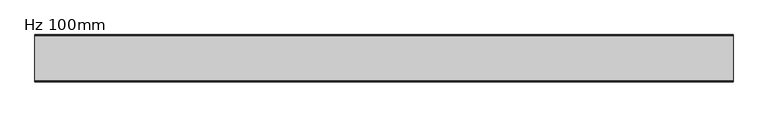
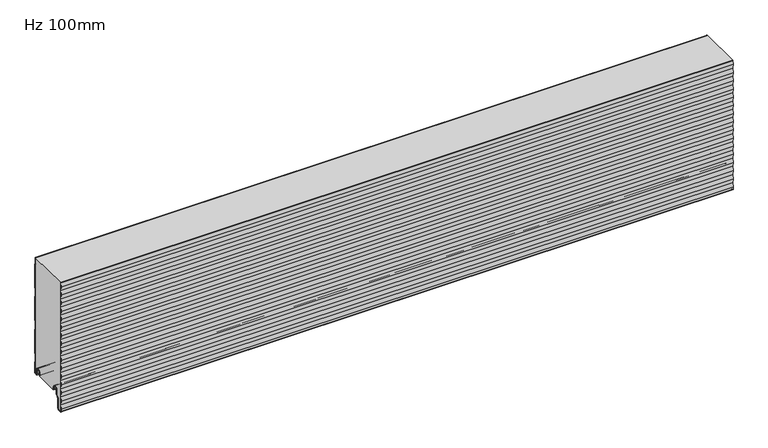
"""IFC4 building model written with IfcOpenShell, lengths in millimetres: plate geometry, KIP-MEX-KSS-1067-R19-CP-Hz-MR_SL : Hz 100mm."""

from ifc_helpers import new_model, si_unit, point, frame, frame_2d, origin, place, context, project, spatial, polyline, circle_curve, trimmed, segment, composite_curve, outline, extrude, source, transform, mapped, element, save
from ifc_brep_helpers import plane_surface, cylinder_surface, revolved_surface, advanced_brep


def hz_100mm_43d21306(model_context):
    return source(origin(), model_context, "Body", "SolidModel", [
        advanced_brep(
        [(-740.0, -17.0015159, 2.0313088), (-740.0, -18.0015191, 1.0313116), (-740.0, -19.0015105, 2.0313088), (-740.0, -19.0015105, 6.0315125), (-740.0, -18.0015159, 6.0315125), (-740.0, -18.0015159, 8.7237223), (-740.0, -14.7015202, 12.023718), (-740.0, -10.301529, 12.023718), (-740.0, -7.0015335, 8.7237225), (-740.0, -7.0015335, -1.6962564), (-740.0, -5.2315393, -3.4662506), (-740.0, -0.9999916, -3.4662506), (-740.0, -0.9999916, 21.034026), (-740.0, -2.2002307, 22.4196686), (-740.0, -2.2002307, 41.7948349), (-740.0, -1.0, 43.1804679), (-740.0, -1.0, 97.2338833), (-740.0, -2.2002307, 98.6195162), (-740.0, -2.2002307, 117.9946825), (-740.0, -1.0, 119.3803155), (-740.0, -1.0, 173.4337309), (-740.0, -2.2002307, 174.8193638), (-740.0, -2.2002307, 194.1945301), (-740.0, -1.0, 195.5801631), (-740.0, -1.0, 249.6335785), (-740.0, -2.2002307, 251.0192114), (-740.0, -2.2002307, 266.0), (-740.0, -1.2002307, 266.0), (-740.0, -1.2002307, 251.3920919), (-740.0, -0.3417885, 250.4010442), (-740.0, 0.0, 249.4844273), (-740.0, 0.0, 195.7293142), (-740.0, -0.3417885, 194.8126973), (-740.0, -1.2002307, 193.8216497), (-740.0, -1.2002307, 175.1922443), (-740.0, -0.3417885, 174.2011966), (-740.0, 0.0, 173.2845797), (-740.0, 0.0, 119.5294666), (-740.0, -0.3417885, 118.6128497), (-740.0, -1.2002307, 117.6218021), (-740.0, -1.2002307, 98.9923967), (-740.0, -0.3417885, 98.001349), (-740.0, 0.0, 97.0847321), (-740.0, 0.0, 43.329619), (-740.0, -0.3417885, 42.4130021), (-740.0, -1.2002307, 41.4219545), (-740.0, -1.2002307, 22.7925491), (-740.0, -0.3417885, 21.8015014), (-740.0, 0.0, 20.8847931), (-740.0, 8.4e-06, -3.0662545), (-740.0, -1.3999878, -4.4662506), (-740.0, -5.2315393, -4.4662506), (-740.0, -8.0015335, -1.6962564), (-740.0, -8.0015335, 8.7237225), (-740.0, -10.301529, 11.023718), (-740.0, -14.7015202, 11.023718), (-740.0, -17.0015159, 8.7237223), (740.0, -17.0015159, 2.0313088), (740.0, -17.0015159, 8.7237223), (740.0, -14.7015202, 11.023718), (740.0, -10.301529, 11.023718), (740.0, -8.0015335, 8.7237225), (740.0, -8.0015335, -1.6962564), (740.0, -5.2315393, -4.4662506), (740.0, -1.3999878, -4.4662506), (740.0, 8.4e-06, -3.0662545), (740.0, 8.4e-06, 20.8848845), (740.0, -0.3417885, 21.8015014), (740.0, -1.2002307, 22.7925491), (740.0, -1.2002307, 41.4219545), (740.0, -0.3417885, 42.4130021), (740.0, 0.0, 43.329619), (740.0, 0.0, 97.0847321), (740.0, -0.3417885, 98.001349), (740.0, -1.2002307, 98.9923967), (740.0, -1.2002307, 117.6218021), (740.0, -0.3417885, 118.6128497), (740.0, 0.0, 119.5294666), (740.0, 0.0, 173.2845797), (740.0, -0.3417885, 174.2011966), (740.0, -1.2002307, 175.1922443), (740.0, -1.2002307, 193.8216497), (740.0, -0.3417885, 194.8126973), (740.0, 0.0, 195.7293142), (740.0, 0.0, 249.4844273), (740.0, -0.3417885, 250.4010442), (740.0, -1.2002307, 251.3920919), (740.0, -1.2002307, 266.0), (740.0, -2.2002307, 266.0), (740.0, -2.2002307, 251.0192114), (740.0, -1.0, 249.6335785), (740.0, -1.0, 195.5801631), (740.0, -2.2002307, 194.1945301), (740.0, -2.2002307, 174.8193638), (740.0, -1.0, 173.4337309), (740.0, -1.0, 119.3803155), (740.0, -2.2002307, 117.9946825), (740.0, -2.2002307, 98.6195162), (740.0, -1.0, 97.2338833), (740.0, -1.0, 43.1804679), (740.0, -2.2002307, 41.7948349), (740.0, -2.2002307, 22.4196686), (740.0, -0.9999916, 21.034026), (740.0, -0.9999916, -3.4662506), (740.0, -5.2315393, -3.4662506), (740.0, -7.0015335, -1.6962564), (740.0, -7.0015335, 8.7237225), (740.0, -10.301529, 12.023718), (740.0, -14.7015202, 12.023718), (740.0, -18.0015159, 8.7237223), (740.0, -18.0015159, 6.0315125), (740.0, -19.0015105, 6.0315125), (740.0, -19.0015105, 2.0313088), (740.0, -18.0015192, 1.0313116)],
        [
            (0, 1, circle_curve(frame((-740.0, -18.0015132, 2.0313088), z_axis=(-1.0, 0.0, 0.0), x_axis=(0.0, 0.0, 1.0)), 0.9999973)),
            (1, 2, circle_curve(frame((-740.0, -18.0015133, 2.0313088), z_axis=(-1.0, 0.0, 0.0), x_axis=(0.0, 0.0, 1.0)), 0.9999972)),
            (2, 3),
            (3, 4),
            (4, 5),
            (5, 6, circle_curve(frame((-740.0, -14.7015202, 8.7237223), z_axis=(-1.0, 0.0, 0.0), x_axis=(0.0, 0.0, 1.0)), 3.2999957)),
            (6, 7),
            (7, 8, circle_curve(frame((-740.0, -10.301529, 8.7237225), z_axis=(-1.0, 0.0, 0.0), x_axis=(0.0, 0.0, 1.0)), 3.2999955)),
            (8, 9),
            (9, 10, circle_curve(frame((-740.0, -5.2315393, -1.6962564), z_axis=(1.0, 0.0, 0.0), x_axis=(0.0, 0.0, 1.0)), 1.7699942)),
            (10, 11),
            (11, 12),
            (12, 13),
            (13, 14),
            (14, 15),
            (15, 16),
            (16, 17),
            (17, 18),
            (18, 19),
            (19, 20),
            (20, 21),
            (21, 22),
            (22, 23),
            (23, 24),
            (24, 25),
            (25, 26),
            (26, 27),
            (27, 28),
            (28, 29),
            (29, 30, circle_curve(frame((-740.0, -1.3999972, 249.4844273), z_axis=(-1.0, 0.0, 0.0), x_axis=(0.0, 0.0, 1.0)), 1.3999972)),
            (30, 31),
            (31, 32, circle_curve(frame((-740.0, -1.3999972, 195.7293142), z_axis=(-1.0, 0.0, 0.0), x_axis=(0.0, 0.0, 1.0)), 1.3999972)),
            (32, 33),
            (33, 34),
            (34, 35),
            (35, 36, circle_curve(frame((-740.0, -1.3999972, 173.2845797), z_axis=(-1.0, 0.0, 0.0), x_axis=(0.0, 0.0, 1.0)), 1.3999972)),
            (36, 37),
            (37, 38, circle_curve(frame((-740.0, -1.3999972, 119.5294666), z_axis=(-1.0, 0.0, 0.0), x_axis=(0.0, 0.0, 1.0)), 1.3999972)),
            (38, 39),
            (39, 40),
            (40, 41),
            (41, 42, circle_curve(frame((-740.0, -1.3999972, 97.0847321), z_axis=(-1.0, 0.0, 0.0), x_axis=(0.0, 0.0, 1.0)), 1.3999972)),
            (42, 43),
            (43, 44, circle_curve(frame((-740.0, -1.3999972, 43.329619), z_axis=(-1.0, 0.0, 0.0), x_axis=(0.0, 0.0, 1.0)), 1.3999972)),
            (44, 45),
            (45, 46),
            (46, 47),
            (47, 48, circle_curve(frame((-740.0, -1.3999972, 20.8848845), z_axis=(-1.0, 0.0, 0.0), x_axis=(0.0, 0.0, 1.0)), 1.3999972)),
            (48, 49),
            (49, 50, circle_curve(frame((-740.0, -1.3999878, -3.0662545), z_axis=(-1.0, 0.0, 0.0), x_axis=(0.0, 0.0, 1.0)), 1.3999962)),
            (50, 51),
            (51, 52, circle_curve(frame((-740.0, -5.2315393, -1.6962564), z_axis=(-1.0, 0.0, 0.0), x_axis=(0.0, 0.0, 1.0)), 2.7699942)),
            (52, 53),
            (53, 54, circle_curve(frame((-740.0, -10.301529, 8.7237225), z_axis=(1.0, 0.0, 0.0), x_axis=(0.0, 0.0, 1.0)), 2.2999955)),
            (54, 55),
            (55, 56, circle_curve(frame((-740.0, -14.7015202, 8.7237223), z_axis=(1.0, 0.0, 0.0), x_axis=(0.0, 0.0, 1.0)), 2.2999957)),
            (56, 0),
            (57, 58),
            (58, 59, circle_curve(frame((740.0, -14.7015202, 8.7237223), z_axis=(-1.0, 0.0, 0.0), x_axis=(0.0, 0.0, 1.0)), 2.2999957)),
            (59, 60),
            (60, 61, circle_curve(frame((740.0, -10.301529, 8.7237225), z_axis=(-1.0, 0.0, 0.0), x_axis=(0.0, 0.0, 1.0)), 2.2999955)),
            (61, 62),
            (62, 63, circle_curve(frame((740.0, -5.2315393, -1.6962564), z_axis=(1.0, 0.0, 0.0), x_axis=(0.0, 0.0, 1.0)), 2.7699942)),
            (63, 64),
            (64, 65, circle_curve(frame((740.0, -1.3999878, -3.0662545), z_axis=(1.0, 0.0, 0.0), x_axis=(0.0, 0.0, 1.0)), 1.3999962)),
            (65, 66),
            (66, 67, circle_curve(frame((740.0, -1.3999972, 20.8848845), z_axis=(1.0, 0.0, 0.0), x_axis=(0.0, 0.0, 1.0)), 1.3999972)),
            (67, 68),
            (68, 69),
            (69, 70),
            (70, 71, circle_curve(frame((740.0, -1.3999972, 43.329619), z_axis=(1.0, 0.0, 0.0), x_axis=(0.0, 0.0, 1.0)), 1.3999972)),
            (71, 72),
            (72, 73, circle_curve(frame((740.0, -1.3999972, 97.0847321), z_axis=(1.0, 0.0, 0.0), x_axis=(0.0, 0.0, 1.0)), 1.3999972)),
            (73, 74),
            (74, 75),
            (75, 76),
            (76, 77, circle_curve(frame((740.0, -1.3999972, 119.5294666), z_axis=(1.0, 0.0, 0.0), x_axis=(0.0, 0.0, 1.0)), 1.3999972)),
            (77, 78),
            (78, 79, circle_curve(frame((740.0, -1.3999972, 173.2845797), z_axis=(1.0, 0.0, 0.0), x_axis=(0.0, 0.0, 1.0)), 1.3999972)),
            (79, 80),
            (80, 81),
            (81, 82),
            (82, 83, circle_curve(frame((740.0, -1.3999972, 195.7293142), z_axis=(1.0, 0.0, 0.0), x_axis=(0.0, 0.0, 1.0)), 1.3999972)),
            (83, 84),
            (84, 85, circle_curve(frame((740.0, -1.3999972, 249.4844273), z_axis=(1.0, 0.0, 0.0), x_axis=(0.0, 0.0, 1.0)), 1.3999972)),
            (85, 86),
            (86, 87),
            (87, 88),
            (88, 89),
            (89, 90),
            (90, 91),
            (91, 92),
            (92, 93),
            (93, 94),
            (94, 95),
            (95, 96),
            (96, 97),
            (97, 98),
            (98, 99),
            (99, 100),
            (100, 101),
            (101, 102),
            (102, 103),
            (103, 104),
            (104, 105, circle_curve(frame((740.0, -5.2315393, -1.6962564), z_axis=(-1.0, 0.0, 0.0), x_axis=(0.0, 0.0, 1.0)), 1.7699942)),
            (105, 106),
            (106, 107, circle_curve(frame((740.0, -10.301529, 8.7237225), z_axis=(1.0, 0.0, 0.0), x_axis=(0.0, 0.0, 1.0)), 3.2999955)),
            (107, 108),
            (108, 109, circle_curve(frame((740.0, -14.7015202, 8.7237223), z_axis=(1.0, 0.0, 0.0), x_axis=(0.0, 0.0, 1.0)), 3.2999957)),
            (109, 110),
            (110, 111),
            (111, 112),
            (112, 113, circle_curve(frame((740.0, -18.0015133, 2.0313088), z_axis=(1.0, 0.0, 0.0), x_axis=(0.0, 0.0, 1.0)), 0.9999972)),
            (113, 57, circle_curve(frame((740.0, -18.0015132, 2.0313088), z_axis=(1.0, 0.0, 0.0), x_axis=(0.0, 0.0, 1.0)), 0.9999973)),
            (56, 58),
            (57, 0),
            (55, 59),
            (54, 60),
            (53, 61),
            (52, 62),
            (51, 63),
            (50, 64),
            (49, 65),
            (48, 66),
            (47, 67),
            (46, 68),
            (45, 69),
            (44, 70),
            (43, 71),
            (42, 72),
            (41, 73),
            (40, 74),
            (39, 75),
            (38, 76),
            (37, 77),
            (36, 78),
            (35, 79),
            (34, 80),
            (33, 81),
            (32, 82),
            (31, 83),
            (30, 84),
            (29, 85),
            (28, 86),
            (27, 87),
            (88, 26),
            (25, 89),
            (24, 90),
            (23, 91),
            (22, 92),
            (21, 93),
            (20, 94),
            (19, 95),
            (18, 96),
            (17, 97),
            (16, 98),
            (15, 99),
            (14, 100),
            (13, 101),
            (12, 102),
            (11, 103),
            (10, 104),
            (9, 105),
            (8, 106),
            (7, 107),
            (6, 108),
            (5, 109),
            (4, 110),
            (3, 111),
            (2, 112),
            (1, 113),
        ],
        [
            plane_surface(frame((-740.0, 0.0, 533.4), z_axis=(-1.0, 0.0, 0.0), x_axis=(0.0, 1.0, 0.0))),
            plane_surface(frame((740.0, 0.0, 533.4), z_axis=(1.0, 0.0, 0.0), x_axis=(0.0, 1.0, 0.0))),
            plane_surface(frame((-740.0, -17.0015159, 2.0313088), z_axis=(0.0, 1.0, 0.0), x_axis=(1.0, 0.0, 0.0))),
            revolved_surface(polyline([(740.0, -14.7015202, 11.023718), (-740.0, -14.7015202, 11.023718)]), (-740.0, -14.7015202, 8.7237223), (1.0, 0.0, 0.0)),
            plane_surface(frame((-740.0, -14.7015202, 11.023718), z_axis=(0.0, 0.0, -1.0), x_axis=(1.0, 0.0, 0.0))),
            revolved_surface(polyline([(740.0, -10.301529, 11.023717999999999), (-740.0, -10.301529, 11.023717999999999)]), (-740.0, -10.301529, 8.7237225), (1.0, 0.0, 0.0)),
            plane_surface(frame((-740.0, -8.0015335, 8.7237225), z_axis=(0.0, -1.0, 0.0), x_axis=(1.0, 0.0, 0.0))),
            cylinder_surface(frame((-740.0, -5.2315393, -1.6962564), z_axis=(-1.0, 0.0, 0.0), x_axis=(0.0, 0.0, 1.0)), 2.7699942),
            plane_surface(frame((-740.0, -5.2315393, -4.4662506), z_axis=(0.0, 0.0, -1.0), x_axis=(1.0, 0.0, 0.0))),
            cylinder_surface(frame((-740.0, -1.3999878, -3.0662545), z_axis=(-1.0, 0.0, 0.0), x_axis=(0.0, 0.0, 1.0)), 1.3999962),
            plane_surface(frame((-740.0, 8.4e-06, -3.0662545), z_axis=(0.0, 1.0, 0.0), x_axis=(1.0, 0.0, 0.0))),
            cylinder_surface(frame((-740.0, -1.3999972, 20.8848845), z_axis=(-1.0, 0.0, 0.0), x_axis=(0.0, 0.0, 1.0)), 1.3999972),
            plane_surface(frame((-740.0, -0.3417885, 21.8015014), z_axis=(0.0, 0.755864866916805, 0.6547276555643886), x_axis=(1.0, 0.0, 0.0))),
            plane_surface(frame((-740.0, -1.2002307, 32.1072518), z_axis=(0.0, 1.0, 0.0), x_axis=(1.0, 0.0, 0.0))),
            plane_surface(frame((-740.0, -1.2002307, 41.4219545), z_axis=(0.0, 0.755864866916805, -0.6547276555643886), x_axis=(1.0, 0.0, 0.0))),
            cylinder_surface(frame((-740.0, -1.3999972, 43.329619), z_axis=(-1.0, 0.0, 0.0), x_axis=(0.0, 0.0, 1.0)), 1.3999972),
            plane_surface(frame((-740.0, 0.0, 43.329619), z_axis=(0.0, 1.0, 0.0), x_axis=(1.0, 0.0, 0.0))),
            cylinder_surface(frame((-740.0, -1.3999972, 97.0847321), z_axis=(-1.0, 0.0, 0.0), x_axis=(0.0, 0.0, 1.0)), 1.3999972),
            plane_surface(frame((-740.0, -0.3417885, 98.001349), z_axis=(0.0, 0.755864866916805, 0.6547276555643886), x_axis=(1.0, 0.0, 0.0))),
            plane_surface(frame((-740.0, -1.2002307, 108.3070994), z_axis=(0.0, 1.0, 0.0), x_axis=(1.0, 0.0, 0.0))),
            plane_surface(frame((-740.0, -1.2002307, 117.6218021), z_axis=(0.0, 0.755864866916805, -0.6547276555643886), x_axis=(1.0, 0.0, 0.0))),
            cylinder_surface(frame((-740.0, -1.3999972, 119.5294666), z_axis=(-1.0, 0.0, 0.0), x_axis=(0.0, 0.0, 1.0)), 1.3999972),
            plane_surface(frame((-740.0, 0.0, 119.5294666), z_axis=(0.0, 1.0, 0.0), x_axis=(1.0, 0.0, 0.0))),
            cylinder_surface(frame((-740.0, -1.3999972, 173.2845797), z_axis=(-1.0, 0.0, 0.0), x_axis=(0.0, 0.0, 1.0)), 1.3999972),
            plane_surface(frame((-740.0, -0.3417885, 174.2011966), z_axis=(0.0, 0.755864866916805, 0.6547276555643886), x_axis=(1.0, 0.0, 0.0))),
            plane_surface(frame((-740.0, -1.2002307, 184.506947), z_axis=(0.0, 1.0, 0.0), x_axis=(1.0, 0.0, 0.0))),
            plane_surface(frame((-740.0, -1.2002307, 193.8216497), z_axis=(0.0, 0.755864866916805, -0.6547276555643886), x_axis=(1.0, 0.0, 0.0))),
            cylinder_surface(frame((-740.0, -1.3999972, 195.7293142), z_axis=(-1.0, 0.0, 0.0), x_axis=(0.0, 0.0, 1.0)), 1.3999972),
            plane_surface(frame((-740.0, 0.0, 195.7293142), z_axis=(0.0, 1.0, 0.0), x_axis=(1.0, 0.0, 0.0))),
            cylinder_surface(frame((-740.0, -1.3999972, 249.4844273), z_axis=(-1.0, 0.0, 0.0), x_axis=(0.0, 0.0, 1.0)), 1.3999972),
            plane_surface(frame((-740.0, -0.3417885, 250.4010442), z_axis=(0.0, 0.755864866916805, 0.6547276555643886), x_axis=(1.0, 0.0, 0.0))),
            plane_surface(frame((-740.0, -1.2002307, 260.7067946), z_axis=(0.0, 1.0, 0.0), x_axis=(1.0, 0.0, 0.0))),
            plane_surface(frame((-740.0, -2.2002307, 270.3943777), z_axis=(0.0, -1.0, 0.0), x_axis=(1.0, 0.0, 0.0))),
            plane_surface(frame((-740.0, -2.2002307, 251.0192114), z_axis=(0.0, -0.755864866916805, -0.6547276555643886), x_axis=(1.0, 0.0, 0.0))),
            plane_surface(frame((-740.0, -1.0, 249.6335785), z_axis=(0.0, -1.0, 0.0), x_axis=(1.0, 0.0, 0.0))),
            plane_surface(frame((-740.0, -1.0, 195.5801631), z_axis=(0.0, -0.755864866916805, 0.6547276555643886), x_axis=(1.0, 0.0, 0.0))),
            plane_surface(frame((-740.0, -2.2002307, 194.1945301), z_axis=(0.0, -1.0, 0.0), x_axis=(1.0, 0.0, 0.0))),
            plane_surface(frame((-740.0, -2.2002307, 174.8193638), z_axis=(0.0, -0.755864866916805, -0.6547276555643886), x_axis=(1.0, 0.0, 0.0))),
            plane_surface(frame((-740.0, -1.0, 173.4337309), z_axis=(0.0, -1.0, 0.0), x_axis=(1.0, 0.0, 0.0))),
            plane_surface(frame((-740.0, -1.0, 119.3803155), z_axis=(0.0, -0.755864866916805, 0.6547276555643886), x_axis=(1.0, 0.0, 0.0))),
            plane_surface(frame((-740.0, -2.2002307, 117.9946825), z_axis=(0.0, -1.0, 0.0), x_axis=(1.0, 0.0, 0.0))),
            plane_surface(frame((-740.0, -2.2002307, 98.6195162), z_axis=(0.0, -0.755864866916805, -0.6547276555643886), x_axis=(1.0, 0.0, 0.0))),
            plane_surface(frame((-740.0, -1.0, 97.2338833), z_axis=(0.0, -1.0, 0.0), x_axis=(1.0, 0.0, 0.0))),
            plane_surface(frame((-740.0, -1.0, 43.1804679), z_axis=(0.0, -0.755864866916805, 0.6547276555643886), x_axis=(1.0, 0.0, 0.0))),
            plane_surface(frame((-740.0, -2.2002307, 41.7948349), z_axis=(0.0, -1.0, 0.0), x_axis=(1.0, 0.0, 0.0))),
            plane_surface(frame((-740.0, -2.2002307, 22.4196686), z_axis=(0.0, -0.755864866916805, -0.6547276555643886), x_axis=(1.0, 0.0, 0.0))),
            plane_surface(frame((-740.0, -0.9999916, 21.034026), z_axis=(0.0, -1.0, 0.0), x_axis=(1.0, 0.0, 0.0))),
            plane_surface(frame((-740.0, -0.9999916, -3.4662506), z_axis=(0.0, 0.0, 1.0), x_axis=(1.0, 0.0, 0.0))),
            revolved_surface(polyline([(740.0, -5.2315393, 0.07373779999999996), (-740.0, -5.2315393, 0.07373779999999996)]), (-740.0, -5.2315393, -1.6962564), (1.0, 0.0, 0.0)),
            plane_surface(frame((-740.0, -7.0015335, -1.6962564), z_axis=(0.0, 1.0, 0.0), x_axis=(1.0, 0.0, 0.0))),
            cylinder_surface(frame((-740.0, -10.301529, 8.7237225), z_axis=(-1.0, 0.0, 0.0), x_axis=(0.0, 0.0, 1.0)), 3.2999955),
            plane_surface(frame((-740.0, -10.301529, 12.023718), z_axis=(0.0, 0.0, 1.0), x_axis=(1.0, 0.0, 0.0))),
            cylinder_surface(frame((-740.0, -14.7015202, 8.7237223), z_axis=(-1.0, 0.0, 0.0), x_axis=(0.0, 0.0, 1.0)), 3.2999957),
            plane_surface(frame((-740.0, -18.0015159, 8.7237223), z_axis=(0.0, -1.0, 0.0), x_axis=(1.0, 0.0, 0.0))),
            plane_surface(frame((-740.0, -18.0015159, 6.0315125), z_axis=(0.0, 0.0, 1.0), x_axis=(1.0, 0.0, 0.0))),
            plane_surface(frame((-740.0, -19.0015105, 6.0315125), z_axis=(0.0, -1.0, 0.0), x_axis=(1.0, 0.0, 0.0))),
            cylinder_surface(frame((-740.0, -18.0015133, 2.0313088), z_axis=(-1.0, 0.0, 0.0), x_axis=(0.0, 0.0, 1.0)), 0.9999972),
            cylinder_surface(frame((-740.0, -18.0015132, 2.0313088), z_axis=(-1.0, 0.0, 0.0), x_axis=(0.0, 0.0, 1.0)), 0.9999973),
            plane_surface(frame((740.0, 10.0, 266.0), z_axis=(0.0, 0.0, 1.0), x_axis=(-1.0, 0.0, 0.0))),
        ],
        [
            (0, [[1, 2, 3, 4, 5, 6, 7, 8, 9, 10, 11, 12, 13, 14, 15, 16, 17, 18, 19, 20, 21, 22, 23, 24, 25, 26, 27, 28, 29, 30, 31, 32, 33, 34, 35, 36, 37, 38, 39, 40, 41, 42, 43, 44, 45, 46, 47, 48, 49, 50, 51, 52, 53, 54, 55, 56, 57]]),
            (1, [[58, 59, 60, 61, 62, 63, 64, 65, 66, 67, 68, 69, 70, 71, 72, 73, 74, 75, 76, 77, 78, 79, 80, 81, 82, 83, 84, 85, 86, 87, 88, 89, 90, 91, 92, 93, 94, 95, 96, 97, 98, 99, 100, 101, 102, 103, 104, 105, 106, 107, 108, 109, 110, 111, 112, 113, 114]]),
            (2, [[115, -58, 116, -57]]),
            (3, [[117, -59, -115, -56]]),
            (4, [[118, -60, -117, -55]]),
            (5, [[119, -61, -118, -54]]),
            (6, [[120, -62, -119, -53]]),
            (7, [[121, -63, -120, -52]]),
            (8, [[122, -64, -121, -51]]),
            (9, [[123, -65, -122, -50]]),
            (10, [[124, -66, -123, -49]]),
            (11, [[125, -67, -124, -48]]),
            (12, [[126, -68, -125, -47]]),
            (13, [[127, -69, -126, -46]]),
            (14, [[128, -70, -127, -45]]),
            (15, [[129, -71, -128, -44]]),
            (16, [[130, -72, -129, -43]]),
            (17, [[131, -73, -130, -42]]),
            (18, [[132, -74, -131, -41]]),
            (19, [[133, -75, -132, -40]]),
            (20, [[134, -76, -133, -39]]),
            (21, [[135, -77, -134, -38]]),
            (22, [[136, -78, -135, -37]]),
            (23, [[137, -79, -136, -36]]),
            (24, [[138, -80, -137, -35]]),
            (25, [[139, -81, -138, -34]]),
            (26, [[140, -82, -139, -33]]),
            (27, [[141, -83, -140, -32]]),
            (28, [[142, -84, -141, -31]]),
            (29, [[143, -85, -142, -30]]),
            (30, [[144, -86, -143, -29]]),
            (31, [[-28, 145, -87, -144]]),
            (32, [[-89, 146, -26, 147]]),
            (33, [[148, -90, -147, -25]]),
            (34, [[149, -91, -148, -24]]),
            (35, [[150, -92, -149, -23]]),
            (36, [[151, -93, -150, -22]]),
            (37, [[152, -94, -151, -21]]),
            (38, [[153, -95, -152, -20]]),
            (39, [[154, -96, -153, -19]]),
            (40, [[155, -97, -154, -18]]),
            (41, [[156, -98, -155, -17]]),
            (42, [[157, -99, -156, -16]]),
            (43, [[158, -100, -157, -15]]),
            (44, [[159, -101, -158, -14]]),
            (45, [[160, -102, -159, -13]]),
            (46, [[161, -103, -160, -12]]),
            (47, [[162, -104, -161, -11]]),
            (48, [[163, -105, -162, -10]]),
            (49, [[164, -106, -163, -9]]),
            (50, [[165, -107, -164, -8]]),
            (51, [[166, -108, -165, -7]]),
            (52, [[167, -109, -166, -6]]),
            (53, [[168, -110, -167, -5]]),
            (54, [[169, -111, -168, -4]]),
            (55, [[170, -112, -169, -3]]),
            (56, [[171, -113, -170, -2]]),
            (57, [[-116, -114, -171, -1]]),
            (58, [[-146, -88, -145, -27]]),
        ],
    ),
        extrude(outline(composite_curve([segment(polyline([(-100.0, -8.9442792), (-98.9411849, 0.5807017), (-100.0, 10.1056827), (-98.9411849, 19.6306636), (-100.0, 29.1556446), (-98.9411849, 38.6806255), (-100.0, 48.2056065), (-98.9411849, 57.7305874), (-100.0, 67.2555684), (-98.9411849, 76.7805493), (-100.0, 86.3055303), (-98.9411849, 95.8305112), (-100.0, 105.3554922), (-98.9411849, 114.8804731), (-100.0, 124.4054541), (-98.9411849, 133.930435), (-100.0, 143.455416), (-98.9411849, 152.9803969), (-100.0, 162.5053779), (-98.9411849, 172.0303588), (-100.0, 181.5553398), (-98.9411849, 191.0803207), (-100.0, 200.6053017), (-98.9411849, 210.1302826), (-100.0, 219.6552636), (-98.9411849, 229.1802445), (-100.0, 238.7052255), (-98.9411849, 248.2302064), (-100.0, 257.7551874), (-99.0834909, 266.0), (-98.0773313, 266.0), (-98.9938405, 257.7551874), (-97.9350254, 248.2302064), (-98.9938405, 238.7052255), (-97.9350254, 229.1802445), (-98.9938405, 219.6552636), (-97.9350254, 210.1302826), (-98.9938405, 200.6053017), (-97.9350254, 191.0803207), (-98.9938405, 181.5553398), (-97.9350254, 172.0303588), (-98.9938405, 162.5053779), (-97.9350254, 152.9803969), (-98.9938405, 143.455416), (-97.9350254, 133.930435), (-98.9938405, 124.4054541), (-97.9350254, 114.8804731), (-98.9938405, 105.3554922), (-97.9350254, 95.8305112), (-98.9938405, 86.3055303), (-97.9350254, 76.7805493), (-98.9938405, 67.2555684), (-97.9350254, 57.7305874), (-98.9938405, 48.2056065), (-97.9350254, 38.6806255), (-98.9938405, 29.1556446), (-97.9350254, 19.6306636), (-98.9938405, 10.1056827), (-97.9350254, 0.5807017), (-98.9938405, -8.9442792), (-97.9350254, -18.4692602), (-98.9722676, -27.800174), (-98.9722676, -32.4501937)]), True, "CONTINUOUS"), segment(trimmed(circle_curve(frame_2d((-96.4022755, -32.4521995)), 2.5699929), [point((-98.9722676, -32.4501937))], [point((-96.1782859, -35.0124127))], True, "CARTESIAN"), True, "CONTINUOUS"), segment(polyline([(-96.1782859, -35.0124127), (-91.1965632, -34.5765685)]), True, "CONTINUOUS"), segment(trimmed(circle_curve(frame_2d((-91.677967, -31.9198392)), 2.6999926), [point((-91.1965632, -34.5765685))], [point((-88.9779744, -31.9198392))], True, "CARTESIAN"), True, "CONTINUOUS"), segment(polyline([(-88.9779744, -31.9198392), (-88.9779744, -10.7773997)]), True, "CONTINUOUS"), segment(trimmed(circle_curve(frame_2d((-86.677977, -10.7773997)), 2.2999974), [point((-88.9779744, -10.7773997))], [point((-88.3043208, -9.1510559))], False, "CARTESIAN"), True, "CONTINUOUS"), segment(polyline([(-88.3043208, -9.1510559), (-83.4759033, -4.3226385)]), True, "CONTINUOUS"), segment(trimmed(circle_curve(frame_2d((-84.677981, -3.1205608)), 1.6999946), [point((-83.4759033, -4.3226385))], [point((-82.9779864, -3.1205608))], True, "CARTESIAN"), True, "CONTINUOUS"), segment(polyline([(-82.9779864, -3.1205608), (-82.9779864, 8.6903283)]), True, "CONTINUOUS"), segment(trimmed(circle_curve(frame_2d((-79.6279911, 8.6903283)), 3.3499953), [point((-82.9779864, 8.6903283))], [point((-79.6279911, 12.0403236))], False, "CARTESIAN"), True, "CONTINUOUS"), segment(polyline([(-79.6279911, 12.0403236), (-75.2279999, 12.0403236)]), True, "CONTINUOUS"), segment(trimmed(circle_curve(frame_2d((-75.2279999, 8.6903283)), 3.3499953), [point((-75.2279999, 12.0403236))], [point((-71.8780046, 8.6903283))], False, "CARTESIAN"), True, "CONTINUOUS"), segment(polyline([(-71.8780046, 8.6903283), (-71.8780046, 5.9912173), (-70.4795257, 5.9912173), (-70.4795257, 2.2328239)]), True, "CONTINUOUS"), segment(trimmed(circle_curve(frame_2d((-71.6795224, 2.2313092)), 1.1999976), [point((-70.4795257, 2.2328239))], [point((-71.6486225, 1.0317095))], False, "CARTESIAN"), True, "CONTINUOUS"), segment(trimmed(circle_curve(frame_2d((-71.6795224, 2.2313092)), 1.1999976), [point((-71.6486225, 1.0317095))], [point((-72.8780046, 2.1710221))], False, "CARTESIAN"), True, "CONTINUOUS"), segment(polyline([(-72.8780046, 2.1710221), (-72.8780046, 8.6903283)]), True, "CONTINUOUS"), segment(trimmed(circle_curve(frame_2d((-75.2279999, 8.6903283)), 2.3499953), [point((-72.8780046, 8.6903283))], [point((-75.2279999, 11.0403236))], True, "CARTESIAN"), True, "CONTINUOUS"), segment(polyline([(-75.2279999, 11.0403236), (-79.6279911, 11.0403236)]), True, "CONTINUOUS"), segment(trimmed(circle_curve(frame_2d((-79.6279911, 8.6903283)), 2.3499953), [point((-79.6279911, 11.0403236))], [point((-81.9779864, 8.6903283))], True, "CARTESIAN"), True, "CONTINUOUS"), segment(polyline([(-81.9779864, 8.6903283), (-81.9779864, -3.1205608)]), True, "CONTINUOUS"), segment(trimmed(circle_curve(frame_2d((-84.677981, -3.1205608)), 2.6999946), [point((-81.9779864, -3.1205608))], [point((-82.7687965, -5.0297453))], False, "CARTESIAN"), True, "CONTINUOUS"), segment(polyline([(-82.7687965, -5.0297453), (-87.597214, -9.8581627)]), True, "CONTINUOUS"), segment(trimmed(circle_curve(frame_2d((-86.677977, -10.7773997)), 1.2999974), [point((-87.597214, -9.8581627))], [point((-87.9779744, -10.7773997))], True, "CARTESIAN"), True, "CONTINUOUS"), segment(polyline([(-87.9779744, -10.7773997), (-87.9779744, -31.9198392)]), True, "CONTINUOUS"), segment(trimmed(circle_curve(frame_2d((-91.677967, -31.9198392)), 3.6999926), [point((-87.9779744, -31.9198392))], [point((-91.0671659, -35.5690675))], False, "CARTESIAN"), True, "CONTINUOUS"), segment(polyline([(-91.0671659, -35.5690675), (-96.0911302, -36.0086074)]), True, "CONTINUOUS"), segment(trimmed(circle_curve(frame_2d((-96.4022755, -32.4521995)), 3.5699929), [point((-96.0911302, -36.0086074))], [point((-99.9722676, -32.4498355))], False, "CARTESIAN"), True, "CONTINUOUS"), segment(polyline([(-99.9722676, -32.4498355), (-99.9722676, -27.7447637), (-98.9411849, -18.4692602), (-100.0, -8.9442792)]), True, "CONTINUOUS")], self_intersect=False)), frame((-740.0, 0.0, 0.0), z_axis=(1.0, 0.0, 0.0), x_axis=(0.0, 1.0, 0.0)), (0.0, 0.0, 1.0), 1480.0),
        extrude(outline(composite_curve([segment(polyline([(-75.2341594, 12.0403236), (-79.6341506, 12.0403236)]), True, "CONTINUOUS"), segment(trimmed(circle_curve(frame_2d((-79.6341506, 8.6903283)), 3.3499953), [point((-79.6341506, 12.0403236))], [point((-82.9841459, 8.6903283))], True, "CARTESIAN"), True, "CONTINUOUS"), segment(polyline([(-82.9841459, 8.6903283), (-82.9841459, -3.1205608)]), True, "CONTINUOUS"), segment(trimmed(circle_curve(frame_2d((-84.6841405, -3.1205608)), 1.6999946), [point((-82.9841459, -3.1205608))], [point((-83.4820628, -4.3226385))], False, "CARTESIAN"), True, "CONTINUOUS"), segment(polyline([(-83.4820628, -4.3226385), (-88.3104803, -9.1510559)]), True, "CONTINUOUS"), segment(trimmed(circle_curve(frame_2d((-86.6841365, -10.7773997)), 2.2999974), [point((-88.3104803, -9.1510559))], [point((-88.9841339, -10.7773997))], True, "CARTESIAN"), True, "CONTINUOUS"), segment(polyline([(-88.9841339, -10.7773997), (-88.9841339, -31.9198392)]), True, "CONTINUOUS"), segment(trimmed(circle_curve(frame_2d((-91.6841265, -31.9198392)), 2.6999926), [point((-88.9841339, -31.9198392))], [point((-91.2027227, -34.5765685))], False, "CARTESIAN"), True, "CONTINUOUS"), segment(polyline([(-91.2027227, -34.5765685), (-96.1844454, -35.0124127)]), True, "CONTINUOUS"), segment(trimmed(circle_curve(frame_2d((-96.4084351, -32.4521995)), 2.5699929), [point((-96.1844454, -35.0124127))], [point((-98.9784271, -32.4501937))], False, "CARTESIAN"), True, "CONTINUOUS"), segment(polyline([(-98.9784271, -32.4501937), (-98.9784271, -27.800174), (-97.9411849, -18.4692602), (-99.0, -8.9442792), (-97.9411849, 0.5807017), (-99.0, 10.1056827), (-97.9411849, 19.6306636), (-99.0, 29.1556446), (-97.9411849, 38.6806255), (-99.0, 48.2056065), (-97.9411849, 57.7305874), (-99.0, 67.2555684), (-97.9411849, 76.7805493), (-99.0, 86.3055303), (-97.9411849, 95.8305112), (-99.0, 105.3554922), (-97.9411849, 114.8804731), (-99.0, 124.4054541), (-97.9411849, 133.930435), (-99.0, 143.455416), (-97.9411849, 152.9803969), (-99.0, 162.5053779), (-97.9411849, 172.0303588), (-99.0, 181.5553398), (-97.9411849, 191.0803207), (-99.0, 200.6053017), (-97.9411849, 210.1302826), (-99.0, 219.6552636), (-97.9411849, 229.1802445), (-99.0, 238.7052255), (-97.9411849, 248.2302064), (-99.0, 257.7551874), (-98.0834909, 266.0), (-2.2002307, 266.0), (-2.2002307, 251.0192115), (-1.0, 249.6335785), (-1.0, 195.5801631), (-2.2002307, 194.1945302), (-2.2002307, 174.8193639), (-1.0, 173.4337309), (-1.0, 119.3803155), (-2.2002307, 117.9946826), (-2.2002307, 98.6195163), (-1.0, 97.2338833), (-1.0, 43.1804679), (-2.2002307, 41.794835), (-2.2002307, 22.4196687), (-0.9999916, 21.034026), (-0.9999916, -3.4662506), (-5.2315389, -3.4662506)]), True, "CONTINUOUS"), segment(trimmed(circle_curve(frame_2d((-5.2315389, -1.6962564)), 1.7699942), [point((-5.2315389, -3.4662506))], [point((-7.0015331, -1.6962564))], False, "CARTESIAN"), True, "CONTINUOUS"), segment(polyline([(-7.0015331, -1.6962564), (-7.0015331, 8.7237222)]), True, "CONTINUOUS"), segment(trimmed(circle_curve(frame_2d((-10.301529, 8.7237222)), 3.2999959), [point((-7.0015331, 8.7237222))], [point((-10.301529, 12.023718))], True, "CARTESIAN"), True, "CONTINUOUS"), segment(polyline([(-10.301529, 12.023718), (-14.7015202, 12.023718)]), True, "CONTINUOUS"), segment(trimmed(circle_curve(frame_2d((-14.7015202, 8.7237223)), 3.2999957), [point((-14.7015202, 12.023718))], [point((-18.0015159, 8.7237223))], True, "CARTESIAN"), True, "CONTINUOUS"), segment(polyline([(-18.0015159, 8.7237223), (-18.0015159, 6.0315125), (-19.0015105, 6.0315125), (-19.0015105, 2.0313089)]), True, "CONTINUOUS"), segment(trimmed(circle_curve(frame_2d((-18.0015133, 2.0313089)), 0.9999972), [point((-19.0015105, 2.0313089))], [point((-18.0015192, 1.0313117))], True, "CARTESIAN"), True, "CONTINUOUS"), segment(polyline([(-18.0015192, 1.0313117), (-19.0328308, 0.0), (-70.6230724, 0.0), (-71.654782, 1.0317095)]), True, "CONTINUOUS"), segment(trimmed(circle_curve(frame_2d((-71.6856819, 2.2313092)), 1.1999976), [point((-71.654782, 1.0317095))], [point((-70.4856852, 2.2328239))], True, "CARTESIAN"), True, "CONTINUOUS"), segment(polyline([(-70.4856852, 2.2328239), (-70.4856852, 5.9912173), (-71.8841641, 5.9912173), (-71.8841641, 8.6903283)]), True, "CONTINUOUS"), segment(trimmed(circle_curve(frame_2d((-75.2341594, 8.6903283)), 3.3499953), [point((-71.8841641, 8.6903283))], [point((-75.2341594, 12.0403236))], True, "CARTESIAN"), True, "CONTINUOUS")], self_intersect=False)), frame((-740.0, 0.0, 0.0), z_axis=(1.0, 0.0, 0.0), x_axis=(0.0, 1.0, 0.0)), (0.0, 0.0, 1.0), 1480.0),
    ])


if __name__ == "__main__":
    model = new_model("IFC4")
    model_context = context("Model", 3, world=origin())
    ifc_project = project(units=[si_unit("LENGTHUNIT", "METRE", prefix="MILLI")], contexts=[model_context])
    site = spatial("IfcSite", under=ifc_project)
    building = spatial("IfcBuilding", under=site)
    placement = place(None, origin())
    hz_100mm_shape = hz_100mm_43d21306(model_context)
    element("IfcPlate", 1, ObjectType="KIP-MEX-KSS-1067-R19-CP-Hz-MR_SL : Hz 100mm", at=placement, inside=building, context=model_context, shape_type="MappedRepresentation", body=[
        mapped(hz_100mm_shape, transform((0.0, 0.0, 0.0), x_axis=(1.0, 0.0, 0.0), y_axis=(0.0, 1.0, 0.0), z_axis=(0.0, 0.0, 1.0))),
    ])
    save(model, "model.ifc")
